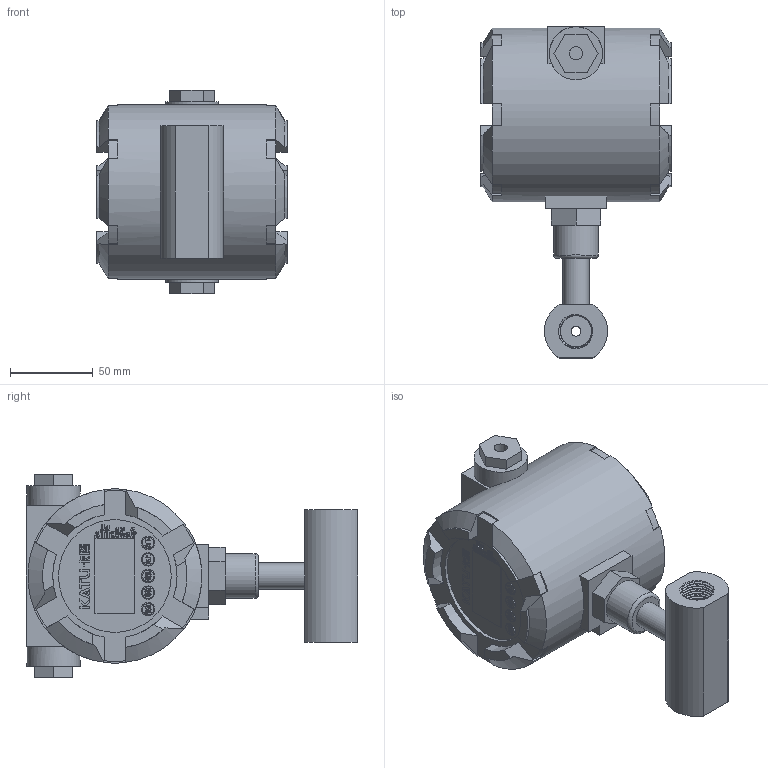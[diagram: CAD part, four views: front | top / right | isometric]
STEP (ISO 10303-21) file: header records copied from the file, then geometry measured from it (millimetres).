
FILE_DESCRIPTION( (''), '2;1');
FILE_NAME( 'QTKC_DN6_female-thread_Ex.step', '2024-10-14T13:52:37+08:00', (''), (''), '', '', '');
FILE_SCHEMA (('AUTOMOTIVE_DESIGN { 1 0 10303 214 3 1 1 1 }'));
Length unit declared in the file: millimetre
Products named in the file (1): QTKC DN6_female-thread_Ex
Bounding box: 115 x 200 x 122.4 mm (x, y, z)
Volume: 1012282 mm3; surface area: 96282.7 mm2
Topology: 4 solids, 4 shells, 1324 faces, 3634 edges, 2418 vertices
Faces by surface type: plane 723, extrusion 504, cylinder 69, cone 16, torus 6, bspline 6
Full cylindrical faces by diameter (mm): 3.3 x1, 6 x1, 8 x2, 15 x1, 16 x1, 18.5 x1, 20 x2, 27 x1, 32 x2, 68 x1, 105 x1
Entity records: 49354 total; most frequent: CARTESIAN_POINT 17848, ORIENTED_EDGE 7196, DIRECTION 4793, EDGE_CURVE 3598, VECTOR 2795, VERTEX_POINT 2405, LINE 2291, B_SPLINE_CURVE_WITH_KNOTS 1627
